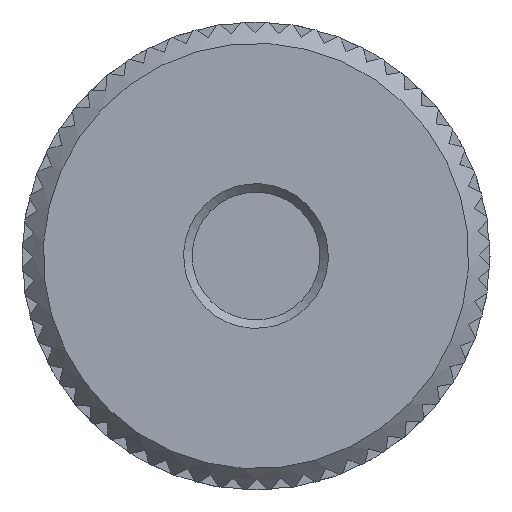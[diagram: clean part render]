
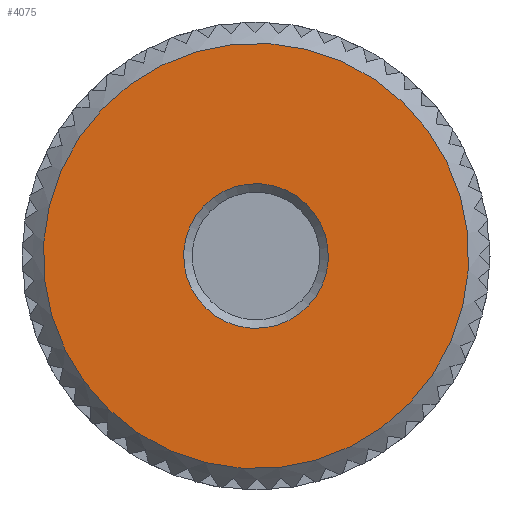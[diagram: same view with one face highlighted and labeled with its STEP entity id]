
A CAD part, left-side view. The second image highlights one B-rep face of the part: STEP entity #4075.
In plain terms, the highlighted planar face has unit normal (-1, 0, 0) as drawn and (0, 1, 0) by its records, which use the part's own axes.
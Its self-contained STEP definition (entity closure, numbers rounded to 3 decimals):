
#1121=ORIENTED_EDGE('',*,*,#2332,.T.);
#1122=ORIENTED_EDGE('',*,*,#2333,.T.);
#2332=EDGE_CURVE('',#2944,#2944,#3242,.F.);
#2333=EDGE_CURVE('',#2945,#2945,#3243,.T.);
#2944=VERTEX_POINT('',#6468);
#2945=VERTEX_POINT('',#6470);
#3242=CIRCLE('',#4573,1.7);
#3243=CIRCLE('',#4574,5.);
#3369=EDGE_LOOP('',(#1121));
#3370=EDGE_LOOP('',(#1122));
#3653=FACE_BOUND('',#3369,.T.);
#3654=FACE_BOUND('',#3370,.T.);
#3856=PLANE('',#4572);
#4075=ADVANCED_FACE('',(#3653,#3654),#3856,.T.);
#4572=AXIS2_PLACEMENT_3D('',#6466,#5361,#5362);
#4573=AXIS2_PLACEMENT_3D('',#6467,#5363,#5364);
#4574=AXIS2_PLACEMENT_3D('',#6469,#5365,#5366);
#5361=DIRECTION('',(0.,1.,0.));
#5362=DIRECTION('',(0.,0.,1.));
#5363=DIRECTION('',(0.,1.,0.));
#5364=DIRECTION('',(0.,0.,1.));
#5365=DIRECTION('',(0.,1.,0.));
#5366=DIRECTION('',(0.,0.,1.));
#6466=CARTESIAN_POINT('',(0.,4.5,0.));
#6467=CARTESIAN_POINT('',(0.,4.5,0.));
#6468=CARTESIAN_POINT('',(0.,4.5,1.7));
#6469=CARTESIAN_POINT('',(0.,4.5,0.));
#6470=CARTESIAN_POINT('',(0.,4.5,5.));
